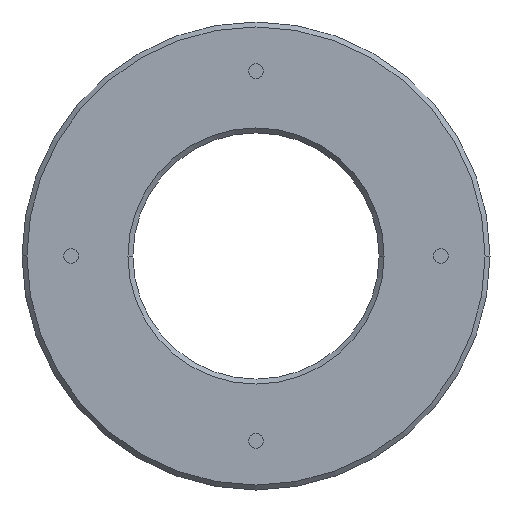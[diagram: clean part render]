
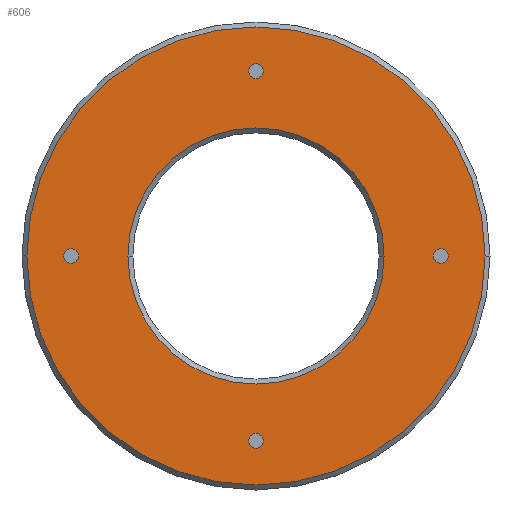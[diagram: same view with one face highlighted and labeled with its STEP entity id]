
A CAD part, front view. The second image highlights one B-rep face of the part: STEP entity #606.
In plain terms, the highlighted planar face has unit normal (0, -1, 0).
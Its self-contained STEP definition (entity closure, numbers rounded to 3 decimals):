
#6=CARTESIAN_POINT('',(37.5,-12.5,0.));
#7=DIRECTION('',(0.,-1.,0.));
#8=DIRECTION('',(0.,0.,-1.));
#9=AXIS2_PLACEMENT_3D('',#6,#7,#8);
#11=CARTESIAN_POINT('',(37.5,-12.5,0.));
#12=DIRECTION('',(0.,-1.,0.));
#13=DIRECTION('',(0.,0.,1.));
#14=AXIS2_PLACEMENT_3D('',#11,#12,#13);
#16=CARTESIAN_POINT('',(0.,-12.5,-37.5));
#17=DIRECTION('',(0.,-1.,0.));
#18=DIRECTION('',(0.,0.,-1.));
#19=AXIS2_PLACEMENT_3D('',#16,#17,#18);
#21=CARTESIAN_POINT('',(0.,-12.5,-37.5));
#22=DIRECTION('',(0.,-1.,0.));
#23=DIRECTION('',(0.,0.,1.));
#24=AXIS2_PLACEMENT_3D('',#21,#22,#23);
#26=CARTESIAN_POINT('',(-37.5,-12.5,0.));
#27=DIRECTION('',(0.,-1.,0.));
#28=DIRECTION('',(0.,0.,-1.));
#29=AXIS2_PLACEMENT_3D('',#26,#27,#28);
#31=CARTESIAN_POINT('',(-37.5,-12.5,0.));
#32=DIRECTION('',(0.,-1.,0.));
#33=DIRECTION('',(0.,0.,1.));
#34=AXIS2_PLACEMENT_3D('',#31,#32,#33);
#36=CARTESIAN_POINT('',(0.,-12.5,37.5));
#37=DIRECTION('',(0.,-1.,0.));
#38=DIRECTION('',(0.,0.,-1.));
#39=AXIS2_PLACEMENT_3D('',#36,#37,#38);
#41=CARTESIAN_POINT('',(0.,-12.5,37.5));
#42=DIRECTION('',(0.,-1.,0.));
#43=DIRECTION('',(0.,0.,1.));
#44=AXIS2_PLACEMENT_3D('',#41,#42,#43);
#46=CARTESIAN_POINT('',(0.,-12.5,
0.));
#47=DIRECTION('',(0.,1.,0.));
#48=DIRECTION('',(-1.,0.,0.));
#49=AXIS2_PLACEMENT_3D('',#46,#47,#48);
#51=CARTESIAN_POINT('',(0.,-12.5,
0.));
#52=DIRECTION('',(0.,1.,0.));
#53=DIRECTION('',(1.,0.,0.));
#54=AXIS2_PLACEMENT_3D('',#51,#52,#53);
#56=CARTESIAN_POINT('',(0.,-12.5,
0.));
#57=DIRECTION('',(0.,1.,0.));
#58=DIRECTION('',(-1.,0.,0.));
#59=AXIS2_PLACEMENT_3D('',#56,#57,#58);
#61=CARTESIAN_POINT('',(0.,-12.5,
0.));
#62=DIRECTION('',(0.,1.,0.));
#63=DIRECTION('',(1.,0.,0.));
#64=AXIS2_PLACEMENT_3D('',#61,#62,#63);
#466=CARTESIAN_POINT('',(37.5,-12.5,-1.5));
#467=CARTESIAN_POINT('',(37.5,-12.5,1.5));
#468=VERTEX_POINT('',#466);
#469=VERTEX_POINT('',#467);
#470=CARTESIAN_POINT('',(0.,-12.5,-39.));
#471=CARTESIAN_POINT('',(0.,-12.5,-36.));
#472=VERTEX_POINT('',#470);
#473=VERTEX_POINT('',#471);
#474=CARTESIAN_POINT('',(-37.5,-12.5,-1.5));
#475=CARTESIAN_POINT('',(-37.5,-12.5,1.5));
#476=VERTEX_POINT('',#474);
#477=VERTEX_POINT('',#475);
#478=CARTESIAN_POINT('',(0.,-12.5,36.));
#479=CARTESIAN_POINT('',(0.,-12.5,39.));
#480=VERTEX_POINT('',#478);
#481=VERTEX_POINT('',#479);
#534=CARTESIAN_POINT('',(-26.,-12.5,0.));
#535=CARTESIAN_POINT('',(26.,-12.5,0.));
#536=VERTEX_POINT('',#534);
#537=VERTEX_POINT('',#535);
#542=CARTESIAN_POINT('',(-46.5,-12.5,
0.));
#543=CARTESIAN_POINT('',(46.5,-12.5,
0.));
#544=VERTEX_POINT('',#542);
#545=VERTEX_POINT('',#543);
#566=CARTESIAN_POINT('',(0.,-12.5,0.));
#567=DIRECTION('',(0.,-1.,0.));
#568=DIRECTION('',(-1.,0.,0.));
#569=AXIS2_PLACEMENT_3D('',#566,#567,#568);
#570=PLANE('',#569);
#572=ORIENTED_EDGE('',*,*,#571,.T.);
#574=ORIENTED_EDGE('',*,*,#573,.T.);
#575=EDGE_LOOP('',(#572,#574));
#576=FACE_OUTER_BOUND('',#575,.F.);
#577=ORIENTED_EDGE('',*,*,#555,.T.);
#579=ORIENTED_EDGE('',*,*,#578,.T.);
#580=EDGE_LOOP('',(#577,#579));
#581=FACE_BOUND('',#580,.F.);
#583=ORIENTED_EDGE('',*,*,#582,.T.);
#585=ORIENTED_EDGE('',*,*,#584,.T.);
#586=EDGE_LOOP('',(#583,#585));
#587=FACE_BOUND('',#586,.F.);
#589=ORIENTED_EDGE('',*,*,#588,.T.);
#591=ORIENTED_EDGE('',*,*,#590,.T.);
#592=EDGE_LOOP('',(#589,#591));
#593=FACE_BOUND('',#592,.F.);
#595=ORIENTED_EDGE('',*,*,#594,.T.);
#597=ORIENTED_EDGE('',*,*,#596,.T.);
#598=EDGE_LOOP('',(#595,#597));
#599=FACE_BOUND('',#598,.F.);
#601=ORIENTED_EDGE('',*,*,#600,.F.);
#603=ORIENTED_EDGE('',*,*,#602,.F.);
#604=EDGE_LOOP('',(#601,#603));
#605=FACE_BOUND('',#604,.F.);
#10=CIRCLE('',#9,1.5);
#15=CIRCLE('',#14,1.5);
#20=CIRCLE('',#19,1.5);
#25=CIRCLE('',#24,1.5);
#30=CIRCLE('',#29,1.5);
#35=CIRCLE('',#34,1.5);
#40=CIRCLE('',#39,1.5);
#45=CIRCLE('',#44,1.5);
#50=CIRCLE('',#49,26.);
#55=CIRCLE('',#54,26.);
#60=CIRCLE('',#59,46.5);
#65=CIRCLE('',#64,46.5);
#555=EDGE_CURVE('',#468,#469,#10,.T.);
#571=EDGE_CURVE('',#544,#545,#60,.T.);
#573=EDGE_CURVE('',#545,#544,#65,.T.);
#578=EDGE_CURVE('',#469,#468,#15,.T.);
#582=EDGE_CURVE('',#472,#473,#20,.T.);
#584=EDGE_CURVE('',#473,#472,#25,.T.);
#588=EDGE_CURVE('',#476,#477,#30,.T.);
#590=EDGE_CURVE('',#477,#476,#35,.T.);
#594=EDGE_CURVE('',#480,#481,#40,.T.);
#596=EDGE_CURVE('',#481,#480,#45,.T.);
#600=EDGE_CURVE('',#536,#537,#50,.T.);
#602=EDGE_CURVE('',#537,#536,#55,.T.);
#606=ADVANCED_FACE('',(#576,#581,#587,#593,#599,#605),#570,.T.);
